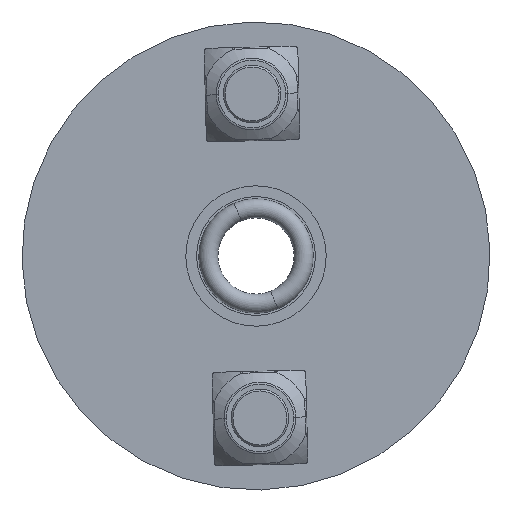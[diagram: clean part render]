
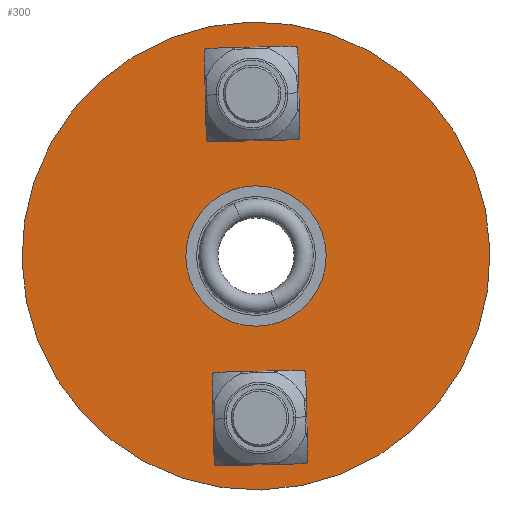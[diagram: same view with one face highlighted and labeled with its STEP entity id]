
A CAD part, left-side view. The second image highlights one B-rep face of the part: STEP entity #300.
In plain terms, the highlighted planar face has unit normal (-1, 0, 0) as drawn and (0, 0, 1) by its records, which use the part's own axes.
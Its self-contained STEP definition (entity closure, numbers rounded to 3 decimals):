
#26 = ORIENTED_EDGE ( 'NONE', *, *, #2261, .T. ) ;
#59 = ORIENTED_EDGE ( 'NONE', *, *, #2079, .F. ) ;
#86 = ORIENTED_EDGE ( 'NONE', *, *, #2247, .F. ) ;
#114 = ORIENTED_EDGE ( 'NONE', *, *, #2269, .F. ) ;
#129 = ORIENTED_EDGE ( 'NONE', *, *, #2266, .F. ) ;
#175 = ORIENTED_EDGE ( 'NONE', *, *, #2073, .F. ) ;
#300 = ADVANCED_FACE ( 'NONE', ( #1964, #1898, #1864, #1900 ), #1396, .T. ) ;
#691 = CIRCLE ( 'NONE', #1981, 4.5 ) ;
#692 = CIRCLE ( 'NONE', #1980, 32.5 ) ;
#694 = CIRCLE ( 'NONE', #1979, 4.5 ) ;
#696 = CIRCLE ( 'NONE', #1978, 4.5 ) ;
#705 = CIRCLE ( 'NONE', #2053, 32.5 ) ;
#717 = CIRCLE ( 'NONE', #2028, 9.75 ) ;
#806 = DIRECTION ( 'NONE',  ( 1., 0., 0. ) ) ;
#1088 = CARTESIAN_POINT ( 'NONE',  ( 0., 0., 22. ) ) ;
#1130 = CARTESIAN_POINT ( 'NONE',  ( -22.5, 0., 22. ) ) ;
#1131 = DIRECTION ( 'NONE',  ( 0., 0., 1. ) ) ;
#1170 = DIRECTION ( 'NONE',  ( 0., 0., 1. ) ) ;
#1173 = DIRECTION ( 'NONE',  ( 1., 0., 0. ) ) ;
#1270 = DIRECTION ( 'NONE',  ( 0., 0., 1. ) ) ;
#1333 = CARTESIAN_POINT ( 'NONE',  ( 0., 0., 22. ) ) ;
#1392 = DIRECTION ( 'NONE',  ( 1., 0., 0. ) ) ;
#1396 = PLANE ( 'NONE',  #2251 ) ;
#1433 = CARTESIAN_POINT ( 'NONE',  ( 18., 0., 22. ) ) ;
#1470 = CARTESIAN_POINT ( 'NONE',  ( 32.5, 0., 22. ) ) ;
#1478 = CARTESIAN_POINT ( 'NONE',  ( -27., 0., 22. ) ) ;
#1479 = CARTESIAN_POINT ( 'NONE',  ( -18., 0., 22. ) ) ;
#1494 = CARTESIAN_POINT ( 'NONE',  ( 27., 0., 22. ) ) ;
#1540 = CARTESIAN_POINT ( 'NONE',  ( 22.5, 0., 22. ) ) ;
#1561 = CARTESIAN_POINT ( 'NONE',  ( -9.75, 0., 22. ) ) ;
#1563 = CARTESIAN_POINT ( 'NONE',  ( 9.75, 0., 22. ) ) ;
#1590 = CARTESIAN_POINT ( 'NONE',  ( -32.5, 0., 22. ) ) ;
#1600 = DIRECTION ( 'NONE',  ( 0., 0., 1. ) ) ;
#1607 = DIRECTION ( 'NONE',  ( 1., 0., 0. ) ) ;
#1608 = CARTESIAN_POINT ( 'NONE',  ( 22.5, 0., 22. ) ) ;
#1610 = DIRECTION ( 'NONE',  ( 1., 0., 0. ) ) ;
#1612 = DIRECTION ( 'NONE',  ( 0., 0., 1. ) ) ;
#1613 = CARTESIAN_POINT ( 'NONE',  ( 0., 0., 22. ) ) ;
#1614 = DIRECTION ( 'NONE',  ( 1., 0., 0. ) ) ;
#1615 = DIRECTION ( 'NONE',  ( 0., 0., 1. ) ) ;
#1617 = DIRECTION ( 'NONE',  ( 0., 0., 1. ) ) ;
#1618 = DIRECTION ( 'NONE',  ( 1., 0., 0. ) ) ;
#1620 = CARTESIAN_POINT ( 'NONE',  ( -22.5, 0., 22. ) ) ;
#1625 = DIRECTION ( 'NONE',  ( 0., 0., 1. ) ) ;
#1626 = CARTESIAN_POINT ( 'NONE',  ( 0., 0., 22. ) ) ;
#1641 = DIRECTION ( 'NONE',  ( 1., 0., 0. ) ) ;
#1679 = DIRECTION ( 'NONE',  ( 0., 0., 1. ) ) ;
#1680 = CARTESIAN_POINT ( 'NONE',  ( 0., 0., 22. ) ) ;
#1690 = DIRECTION ( 'NONE',  ( 1., 0., 0. ) ) ;
#1814 = CIRCLE ( 'NONE', #2045, 4.5 ) ;
#1864 = FACE_OUTER_BOUND ( 'NONE', #2426, .T. ) ;
#1898 = FACE_BOUND ( 'NONE', #2605, .T. ) ;
#1900 = FACE_BOUND ( 'NONE', #2436, .T. ) ;
#1955 = CIRCLE ( 'NONE', #2033, 9.75 ) ;
#1964 = FACE_BOUND ( 'NONE', #2432, .T. ) ;
#1978 = AXIS2_PLACEMENT_3D ( 'NONE', #1620, #1617, #1618 ) ;
#1979 = AXIS2_PLACEMENT_3D ( 'NONE', #1540, #1615, #1614 ) ;
#1980 = AXIS2_PLACEMENT_3D ( 'NONE', #1613, #1612, #1610 ) ;
#1981 = AXIS2_PLACEMENT_3D ( 'NONE', #1608, #1600, #1607 ) ;
#2028 = AXIS2_PLACEMENT_3D ( 'NONE', #1680, #1679, #1690 ) ;
#2033 = AXIS2_PLACEMENT_3D ( 'NONE', #1088, #1170, #1173 ) ;
#2045 = AXIS2_PLACEMENT_3D ( 'NONE', #1130, #1131, #806 ) ;
#2053 = AXIS2_PLACEMENT_3D ( 'NONE', #1626, #1625, #1641 ) ;
#2073 = EDGE_CURVE ( 'NONE', #2400, #2405, #1955, .T. ) ;
#2079 = EDGE_CURVE ( 'NONE', #2633, #2618, #1814, .T. ) ;
#2247 = EDGE_CURVE ( 'NONE', #2405, #2400, #717, .T. ) ;
#2251 = AXIS2_PLACEMENT_3D ( 'NONE', #1333, #1270, #1392 ) ;
#2261 = EDGE_CURVE ( 'NONE', #2630, #2374, #705, .T. ) ;
#2266 = EDGE_CURVE ( 'NONE', #2618, #2633, #696, .T. ) ;
#2267 = EDGE_CURVE ( 'NONE', #2565, #2621, #694, .T. ) ;
#2268 = EDGE_CURVE ( 'NONE', #2374, #2630, #692, .T. ) ;
#2269 = EDGE_CURVE ( 'NONE', #2621, #2565, #691, .T. ) ;
#2374 = VERTEX_POINT ( 'NONE', #1590 ) ;
#2400 = VERTEX_POINT ( 'NONE', #1561 ) ;
#2405 = VERTEX_POINT ( 'NONE', #1563 ) ;
#2426 = EDGE_LOOP ( 'NONE', ( #2584, #26 ) ) ;
#2431 = ORIENTED_EDGE ( 'NONE', *, *, #2267, .F. ) ;
#2432 = EDGE_LOOP ( 'NONE', ( #59, #129 ) ) ;
#2436 = EDGE_LOOP ( 'NONE', ( #175, #86 ) ) ;
#2565 = VERTEX_POINT ( 'NONE', #1494 ) ;
#2584 = ORIENTED_EDGE ( 'NONE', *, *, #2268, .T. ) ;
#2605 = EDGE_LOOP ( 'NONE', ( #114, #2431 ) ) ;
#2618 = VERTEX_POINT ( 'NONE', #1479 ) ;
#2621 = VERTEX_POINT ( 'NONE', #1433 ) ;
#2630 = VERTEX_POINT ( 'NONE', #1470 ) ;
#2633 = VERTEX_POINT ( 'NONE', #1478 ) ;
